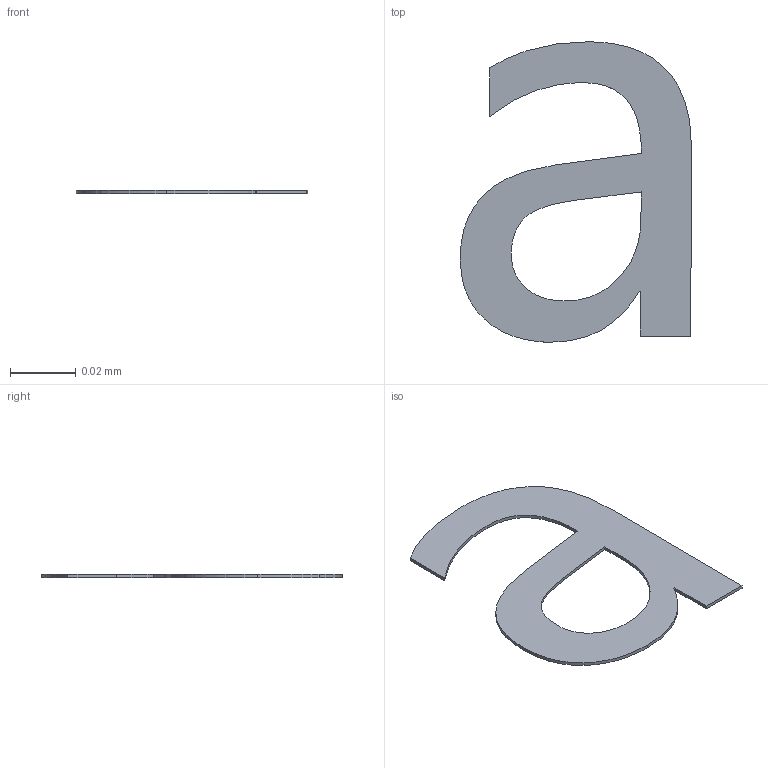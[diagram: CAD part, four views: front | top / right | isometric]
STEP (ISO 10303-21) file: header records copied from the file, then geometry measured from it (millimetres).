
FILE_DESCRIPTION(/* description */ ('STEP AP242 Edition 2','CAx-IF Rec.Pracs.---Representation and Presentation of Product Manufacturing Information (PMI)---4.0---2014-10-13','CAx-IF Rec.Pracs.---3D Tessellated Geometry---0.4---2014-09-14','2;1','CAx-IF Rec.Pracs.---User Defined Attributes---1.5---2016-08-15'),/* implementation_level */ '2;1');
FILE_NAME(/* name */ 'Assembly 1 - SW-SMD_L3.9-W3.0-P4.45~SW-SMD_L3.9-W2.9-H2.0-LS4.8~nxQB (3)',/* time_stamp */ '2026-04-02T09:55:25Z',/* author */ (''),/* organization */ (''),/* preprocessor_version */ 'ST-DEVELOPER v20',/* originating_system */ 'ONSHAPE BY PTC INC, 1.212',/* authorisation */ ' ');
FILE_SCHEMA (('AP242_MANAGED_MODEL_BASED_3D_ENGINEERING_MIM_LF { 1 0 10303 442 3 1 4 }'));
Length unit declared in the file: metre
Products named in the file (1): SW-SMD_L3.9-W3.0-P4.45~SW-SMD_L3.9-W2.9-H2.0-LS4.8~nxQB
Bounding box: 0.07 x 0.09 x 0 mm (x, y, z)
Volume: 0 mm3; surface area: 0 mm2
Topology: 1 solids, 1 shells, 24 faces, 66 edges, 44 vertices
Faces by surface type: bspline 14, plane 10
Entity records: 1029 total; most frequent: CARTESIAN_POINT 317, ORIENTED_EDGE 132, EDGE_CURVE 66, DIRECTION 60, VERTEX_POINT 44, LINE 38, VECTOR 38, B_SPLINE_CURVE_WITH_KNOTS 28
